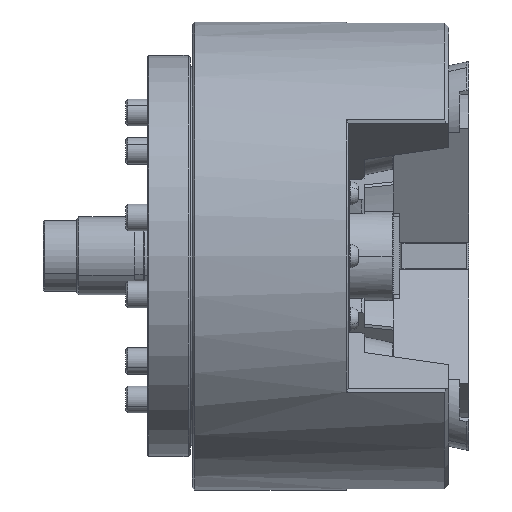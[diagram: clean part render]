
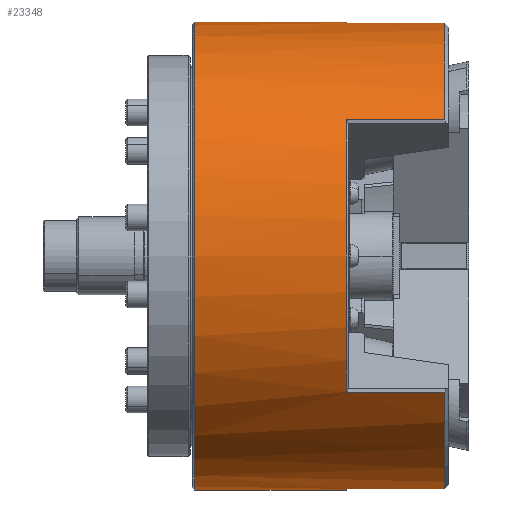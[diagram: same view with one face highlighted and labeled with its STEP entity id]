
A CAD part, front view. The second image highlights one B-rep face of the part: STEP entity #23348.
In plain terms, the highlighted cylindrical face has radius 105 mm (diameter 210 mm), a partial arc.
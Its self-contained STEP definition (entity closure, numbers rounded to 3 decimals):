
#266 = CARTESIAN_POINT ( 'NONE',  ( -68.5, 0., -105. ) ) ;
#1757 = CARTESIAN_POINT ( 'NONE',  ( -0.486, 0., 0. ) ) ;
#1786 = EDGE_CURVE ( 'NONE', #21961, #14152, #31798, .T. ) ;
#2760 = ORIENTED_EDGE ( 'NONE', *, *, #21454, .T. ) ;
#2958 = CARTESIAN_POINT ( 'NONE',  ( -68.5, 0., 105. ) ) ;
#3048 = DIRECTION ( 'NONE',  ( -1., 0., 0. ) ) ;
#3328 = LINE ( 'NONE', #16701, #27267 ) ;
#3510 = EDGE_CURVE ( 'NONE', #8971, #10718, #27270, .T. ) ;
#4290 = VECTOR ( 'NONE', #11347, 1000. ) ;
#4467 = FACE_OUTER_BOUND ( 'NONE', #13199, .T. ) ;
#4500 = CARTESIAN_POINT ( 'NONE',  ( -0.486, 0., -105. ) ) ;
#4626 = DIRECTION ( 'NONE',  ( 0., 0., -1. ) ) ;
#4773 = DIRECTION ( 'NONE',  ( 1., 0., 0. ) ) ;
#4834 = CIRCLE ( 'NONE', #23416, 105. ) ;
#4921 = CARTESIAN_POINT ( 'NONE',  ( 43.5, -85.436, -61.038 ) ) ;
#5421 = EDGE_CURVE ( 'NONE', #27037, #28739, #4834, .T. ) ;
#5439 = ORIENTED_EDGE ( 'NONE', *, *, #5421, .F. ) ;
#5547 = CIRCLE ( 'NONE', #34565, 105. ) ;
#5830 = AXIS2_PLACEMENT_3D ( 'NONE', #28184, #30980, #8829 ) ;
#6062 = CIRCLE ( 'NONE', #35494, 105. ) ;
#6506 = CARTESIAN_POINT ( 'NONE',  ( -0.486, -10.142, 104.509 ) ) ;
#6910 = CARTESIAN_POINT ( 'NONE',  ( -0.486, -85.436, -61.038 ) ) ;
#7003 = CARTESIAN_POINT ( 'NONE',  ( 43.5, 0., 0. ) ) ;
#7135 = VECTOR ( 'NONE', #14550, 1000. ) ;
#8152 = CARTESIAN_POINT ( 'NONE',  ( 43.5, 0., 0. ) ) ;
#8383 = DIRECTION ( 'NONE',  ( -1., 0., 0. ) ) ;
#8829 = DIRECTION ( 'NONE',  ( 0., 0., -1. ) ) ;
#8971 = VERTEX_POINT ( 'NONE', #6910 ) ;
#8977 = VECTOR ( 'NONE', #14446, 1000. ) ;
#9257 = EDGE_CURVE ( 'NONE', #10718, #30274, #12007, .T. ) ;
#9428 = VERTEX_POINT ( 'NONE', #4500 ) ;
#9680 = CARTESIAN_POINT ( 'NONE',  ( 43.5, -85.436, 61.038 ) ) ;
#9819 = DIRECTION ( 'NONE',  ( 0., 0., -1. ) ) ;
#10718 = VERTEX_POINT ( 'NONE', #30166 ) ;
#10721 = EDGE_CURVE ( 'NONE', #21961, #30274, #28136, .T. ) ;
#10986 = DIRECTION ( 'NONE',  ( 0., 0., -1. ) ) ;
#11347 = DIRECTION ( 'NONE',  ( 1., 0., 0. ) ) ;
#11691 = CARTESIAN_POINT ( 'NONE',  ( 63.843, -10.142, -104.509 ) ) ;
#11810 = LINE ( 'NONE', #19457, #4290 ) ;
#11957 = VERTEX_POINT ( 'NONE', #2958 ) ;
#12007 = LINE ( 'NONE', #28565, #7135 ) ;
#13029 = CARTESIAN_POINT ( 'NONE',  ( 63.843, -85.436, -61.038 ) ) ;
#13047 = VERTEX_POINT ( 'NONE', #31814 ) ;
#13199 = EDGE_LOOP ( 'NONE', ( #32353, #25702, #22190, #35441, #31716, #5439, #27201, #20940, #26526, #24750, #20223, #2760 ) ) ;
#14038 = EDGE_CURVE ( 'NONE', #13047, #28739, #16345, .T. ) ;
#14066 = VECTOR ( 'NONE', #29522, 1000. ) ;
#14152 = VERTEX_POINT ( 'NONE', #6506 ) ;
#14446 = DIRECTION ( 'NONE',  ( 1., 0., 0. ) ) ;
#14550 = DIRECTION ( 'NONE',  ( 1., 0., 0. ) ) ;
#14892 = DIRECTION ( 'NONE',  ( -1., 0., 0. ) ) ;
#15887 = AXIS2_PLACEMENT_3D ( 'NONE', #8152, #27515, #10986 ) ;
#16345 = LINE ( 'NONE', #11691, #8977 ) ;
#16701 = CARTESIAN_POINT ( 'NONE',  ( 63.843, 0., 105. ) ) ;
#17548 = CARTESIAN_POINT ( 'NONE',  ( -0.486, 0., 105. ) ) ;
#19457 = CARTESIAN_POINT ( 'NONE',  ( 63.843, 0., -105. ) ) ;
#20223 = ORIENTED_EDGE ( 'NONE', *, *, #1786, .T. ) ;
#20259 = AXIS2_PLACEMENT_3D ( 'NONE', #31458, #14892, #34258 ) ;
#20940 = ORIENTED_EDGE ( 'NONE', *, *, #3510, .T. ) ;
#21216 = DIRECTION ( 'NONE',  ( -1., 0., 0. ) ) ;
#21328 = LINE ( 'NONE', #13029, #14066 ) ;
#21355 = CARTESIAN_POINT ( 'NONE',  ( -68.5, 0., 0. ) ) ;
#21454 = EDGE_CURVE ( 'NONE', #14152, #27228, #21892, .T. ) ;
#21756 = CARTESIAN_POINT ( 'NONE',  ( 43.5, -10.142, -104.509 ) ) ;
#21892 = CIRCLE ( 'NONE', #33696, 105. ) ;
#21961 = VERTEX_POINT ( 'NONE', #33589 ) ;
#22190 = ORIENTED_EDGE ( 'NONE', *, *, #26011, .T. ) ;
#22230 = DIRECTION ( 'NONE',  ( 1., 0., 0. ) ) ;
#23348 = ADVANCED_FACE ( 'NONE', ( #4467 ), #34039, .T. ) ;
#23416 = AXIS2_PLACEMENT_3D ( 'NONE', #7003, #26402, #9819 ) ;
#24183 = DIRECTION ( 'NONE',  ( 0., 0., -1. ) ) ;
#24735 = VECTOR ( 'NONE', #3048, 1000. ) ;
#24750 = ORIENTED_EDGE ( 'NONE', *, *, #10721, .F. ) ;
#24986 = CARTESIAN_POINT ( 'NONE',  ( -0.486, 0., 0. ) ) ;
#25702 = ORIENTED_EDGE ( 'NONE', *, *, #27404, .T. ) ;
#25947 = EDGE_CURVE ( 'NONE', #9428, #13047, #6062, .T. ) ;
#26011 = EDGE_CURVE ( 'NONE', #31796, #9428, #11810, .T. ) ;
#26402 = DIRECTION ( 'NONE',  ( 1., 0., 0. ) ) ;
#26526 = ORIENTED_EDGE ( 'NONE', *, *, #9257, .T. ) ;
#27037 = VERTEX_POINT ( 'NONE', #4921 ) ;
#27127 = EDGE_CURVE ( 'NONE', #11957, #27228, #3328, .T. ) ;
#27201 = ORIENTED_EDGE ( 'NONE', *, *, #33106, .T. ) ;
#27228 = VERTEX_POINT ( 'NONE', #17548 ) ;
#27267 = VECTOR ( 'NONE', #22230, 1000. ) ;
#27270 = CIRCLE ( 'NONE', #20259, 105. ) ;
#27404 = EDGE_CURVE ( 'NONE', #11957, #31796, #5547, .T. ) ;
#27515 = DIRECTION ( 'NONE',  ( 1., 0., 0. ) ) ;
#27747 = DIRECTION ( 'NONE',  ( 0., 0., -1. ) ) ;
#28136 = CIRCLE ( 'NONE', #15887, 105. ) ;
#28184 = CARTESIAN_POINT ( 'NONE',  ( 63.843, 0., 0. ) ) ;
#28565 = CARTESIAN_POINT ( 'NONE',  ( 63.843, -85.436, 61.038 ) ) ;
#28739 = VERTEX_POINT ( 'NONE', #21756 ) ;
#29522 = DIRECTION ( 'NONE',  ( -1., 0., 0. ) ) ;
#30166 = CARTESIAN_POINT ( 'NONE',  ( -0.486, -85.436, 61.038 ) ) ;
#30274 = VERTEX_POINT ( 'NONE', #9680 ) ;
#30980 = DIRECTION ( 'NONE',  ( 1., 0., 0. ) ) ;
#31458 = CARTESIAN_POINT ( 'NONE',  ( -0.486, 0., 0. ) ) ;
#31716 = ORIENTED_EDGE ( 'NONE', *, *, #14038, .T. ) ;
#31796 = VERTEX_POINT ( 'NONE', #266 ) ;
#31798 = LINE ( 'NONE', #32198, #24735 ) ;
#31814 = CARTESIAN_POINT ( 'NONE',  ( -0.486, -10.142, -104.509 ) ) ;
#32198 = CARTESIAN_POINT ( 'NONE',  ( 63.843, -10.142, 104.509 ) ) ;
#32353 = ORIENTED_EDGE ( 'NONE', *, *, #27127, .F. ) ;
#33106 = EDGE_CURVE ( 'NONE', #27037, #8971, #21328, .T. ) ;
#33589 = CARTESIAN_POINT ( 'NONE',  ( 43.5, -10.142, 104.509 ) ) ;
#33696 = AXIS2_PLACEMENT_3D ( 'NONE', #1757, #21216, #4626 ) ;
#34039 = CYLINDRICAL_SURFACE ( 'NONE', #5830, 105. ) ;
#34258 = DIRECTION ( 'NONE',  ( 0., 0., -1. ) ) ;
#34565 = AXIS2_PLACEMENT_3D ( 'NONE', #21355, #4773, #24183 ) ;
#35441 = ORIENTED_EDGE ( 'NONE', *, *, #25947, .T. ) ;
#35494 = AXIS2_PLACEMENT_3D ( 'NONE', #24986, #8383, #27747 ) ;
